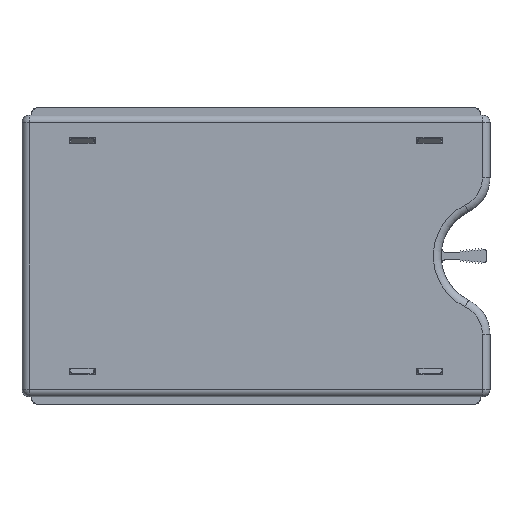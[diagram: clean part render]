
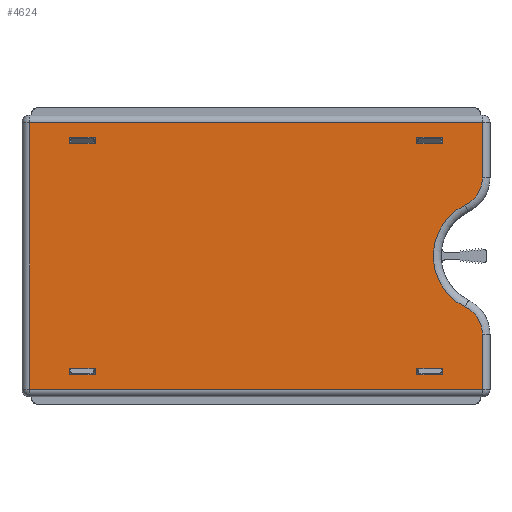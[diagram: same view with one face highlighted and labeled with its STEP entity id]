
A CAD part, top view. The second image highlights one B-rep face of the part: STEP entity #4624.
In plain terms, the highlighted planar face has unit normal (0, 0, 1).
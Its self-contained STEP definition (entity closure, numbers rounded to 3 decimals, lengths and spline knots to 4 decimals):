
#709=DIRECTION('',(1.,0.,0.));
#710=VECTOR('',#709,5.9987);
#711=CARTESIAN_POINT('',(-2.9994,-1.7664,0.09));
#712=LINE('',#711,#710);
#727=DIRECTION('',(0.,-1.,0.));
#728=VECTOR('',#727,3.5327);
#729=CARTESIAN_POINT('',(-2.9994,1.7664,0.09));
#730=LINE('',#729,#728);
#731=DIRECTION('',(0.,1.,0.));
#732=VECTOR('',#731,0.7308);
#733=CARTESIAN_POINT('',(2.9994,1.0356,0.09));
#734=LINE('',#733,#732);
#735=CARTESIAN_POINT('',(2.601,1.0356,0.09));
#736=DIRECTION('',(0.,0.,1.));
#737=DIRECTION('',(0.435,-0.901,0.));
#738=AXIS2_PLACEMENT_3D('',#735,#736,#737);
#740=CARTESIAN_POINT('',(3.101,0.,0.09));
#741=DIRECTION('',(0.,0.,-1.));
#742=DIRECTION('',(-0.435,-0.901,0.));
#743=AXIS2_PLACEMENT_3D('',#740,#741,#742);
#745=CARTESIAN_POINT('',(2.601,-1.0356,0.09));
#746=DIRECTION('',(0.,0.,1.));
#747=DIRECTION('',(1.,0.,0.));
#748=AXIS2_PLACEMENT_3D('',#745,#746,#747);
#750=DIRECTION('',(0.,1.,0.));
#751=VECTOR('',#750,0.7308);
#752=CARTESIAN_POINT('',(2.9994,-1.7664,0.09));
#753=LINE('',#752,#751);
#754=DIRECTION('',(0.,1.,0.));
#755=VECTOR('',#754,0.0817);
#756=CARTESIAN_POINT('',(2.4736,-1.5716,0.09));
#757=LINE('',#756,#755);
#758=DIRECTION('',(-1.,0.,0.));
#759=VECTOR('',#758,0.3431);
#760=CARTESIAN_POINT('',(2.4736,-1.4899,0.09));
#761=LINE('',#760,#759);
#762=DIRECTION('',(0.,-1.,0.));
#763=VECTOR('',#762,0.0817);
#764=CARTESIAN_POINT('',(2.1304,-1.4899,0.09));
#765=LINE('',#764,#763);
#766=DIRECTION('',(1.,0.,0.));
#767=VECTOR('',#766,0.3431);
#768=CARTESIAN_POINT('',(2.1304,-1.5716,0.09));
#769=LINE('',#768,#767);
#770=DIRECTION('',(-1.,0.,0.));
#771=VECTOR('',#770,0.3431);
#772=CARTESIAN_POINT('',(2.4736,1.4899,0.09));
#773=LINE('',#772,#771);
#774=DIRECTION('',(0.,-1.,0.));
#775=VECTOR('',#774,0.0817);
#776=CARTESIAN_POINT('',(2.4736,1.5716,0.09));
#777=LINE('',#776,#775);
#778=DIRECTION('',(1.,0.,0.));
#779=VECTOR('',#778,0.3431);
#780=CARTESIAN_POINT('',(2.1304,1.5716,0.09));
#781=LINE('',#780,#779);
#782=DIRECTION('',(0.,1.,0.));
#783=VECTOR('',#782,0.0817);
#784=CARTESIAN_POINT('',(2.1304,1.4899,0.09));
#785=LINE('',#784,#783);
#786=DIRECTION('',(1.,0.,0.));
#787=VECTOR('',#786,0.3431);
#788=CARTESIAN_POINT('',(-2.4736,-1.4899,0.09));
#789=LINE('',#788,#787);
#790=DIRECTION('',(0.,1.,0.));
#791=VECTOR('',#790,0.0817);
#792=CARTESIAN_POINT('',(-2.4736,-1.5716,0.09));
#793=LINE('',#792,#791);
#794=DIRECTION('',(-1.,0.,0.));
#795=VECTOR('',#794,0.3431);
#796=CARTESIAN_POINT('',(-2.1304,-1.5716,0.09));
#797=LINE('',#796,#795);
#798=DIRECTION('',(0.,-1.,0.));
#799=VECTOR('',#798,0.0817);
#800=CARTESIAN_POINT('',(-2.1304,-1.4899,0.09));
#801=LINE('',#800,#799);
#802=DIRECTION('',(1.,0.,0.));
#803=VECTOR('',#802,0.3431);
#804=CARTESIAN_POINT('',(-2.4736,1.4899,0.09));
#805=LINE('',#804,#803);
#806=DIRECTION('',(0.,1.,0.));
#807=VECTOR('',#806,0.0817);
#808=CARTESIAN_POINT('',(-2.1304,1.4899,0.09));
#809=LINE('',#808,#807);
#810=DIRECTION('',(-1.,0.,0.));
#811=VECTOR('',#810,0.3431);
#812=CARTESIAN_POINT('',(-2.1304,1.5716,0.09));
#813=LINE('',#812,#811);
#814=DIRECTION('',(0.,-1.,0.));
#815=VECTOR('',#814,0.0817);
#816=CARTESIAN_POINT('',(-2.4736,1.5716,0.09));
#817=LINE('',#816,#815);
#833=DIRECTION('',(-1.,0.,0.));
#834=VECTOR('',#833,5.9987);
#835=CARTESIAN_POINT('',(2.9994,1.7664,0.09));
#836=LINE('',#835,#834);
#3295=CARTESIAN_POINT('',(2.9994,-1.7664,0.09));
#3296=VERTEX_POINT('',#3295);
#3298=CARTESIAN_POINT('',(2.9994,1.7664,0.09));
#3300=VERTEX_POINT('',#3298);
#3305=CARTESIAN_POINT('',(-2.9994,1.7664,0.09));
#3307=VERTEX_POINT('',#3305);
#3312=CARTESIAN_POINT('',(-2.9994,-1.7664,0.09));
#3314=VERTEX_POINT('',#3312);
#3319=CARTESIAN_POINT('',(2.9994,1.0356,0.09));
#3320=VERTEX_POINT('',#3319);
#3321=CARTESIAN_POINT('',(2.7742,0.6769,0.09));
#3322=VERTEX_POINT('',#3321);
#3323=CARTESIAN_POINT('',(2.7742,-0.6769,0.09));
#3324=VERTEX_POINT('',#3323);
#3325=CARTESIAN_POINT('',(2.9994,-1.0356,0.09));
#3326=VERTEX_POINT('',#3325);
#3451=CARTESIAN_POINT('',(2.4736,-1.4899,0.09));
#3452=CARTESIAN_POINT('',(2.1304,-1.4899,0.09));
#3453=VERTEX_POINT('',#3451);
#3454=VERTEX_POINT('',#3452);
#3463=CARTESIAN_POINT('',(2.1304,-1.5716,0.09));
#3464=CARTESIAN_POINT('',(2.4736,-1.5716,0.09));
#3465=VERTEX_POINT('',#3463);
#3466=VERTEX_POINT('',#3464);
#3525=CARTESIAN_POINT('',(2.4736,1.4899,0.09));
#3527=VERTEX_POINT('',#3525);
#3529=CARTESIAN_POINT('',(2.1304,1.4899,0.09));
#3531=VERTEX_POINT('',#3529);
#3533=CARTESIAN_POINT('',(2.4736,1.5716,0.09));
#3535=VERTEX_POINT('',#3533);
#3537=CARTESIAN_POINT('',(2.1304,1.5716,0.09));
#3539=VERTEX_POINT('',#3537);
#3599=CARTESIAN_POINT('',(-2.4736,-1.4899,0.09));
#3601=VERTEX_POINT('',#3599);
#3603=CARTESIAN_POINT('',(-2.1304,-1.4899,0.09));
#3605=VERTEX_POINT('',#3603);
#3607=CARTESIAN_POINT('',(-2.4736,-1.5716,0.09));
#3609=VERTEX_POINT('',#3607);
#3611=CARTESIAN_POINT('',(-2.1304,-1.5716,0.09));
#3613=VERTEX_POINT('',#3611);
#3673=CARTESIAN_POINT('',(-2.4736,1.4899,0.09));
#3675=VERTEX_POINT('',#3673);
#3677=CARTESIAN_POINT('',(-2.1304,1.4899,0.09));
#3679=VERTEX_POINT('',#3677);
#3681=CARTESIAN_POINT('',(-2.4736,1.5716,0.09));
#3683=VERTEX_POINT('',#3681);
#3685=CARTESIAN_POINT('',(-2.1304,1.5716,0.09));
#3687=VERTEX_POINT('',#3685);
#4562=CARTESIAN_POINT('',(0.,0.,0.09));
#4563=DIRECTION('',(0.,0.,1.));
#4564=DIRECTION('',(1.,0.,0.));
#4565=AXIS2_PLACEMENT_3D('',#4562,#4563,#4564);
#4566=PLANE('',#4565);
#4567=ORIENTED_EDGE('',*,*,#4544,.F.);
#4569=ORIENTED_EDGE('',*,*,#4568,.F.);
#4571=ORIENTED_EDGE('',*,*,#4570,.F.);
#4573=ORIENTED_EDGE('',*,*,#4572,.F.);
#4575=ORIENTED_EDGE('',*,*,#4574,.F.);
#4577=ORIENTED_EDGE('',*,*,#4576,.F.);
#4579=ORIENTED_EDGE('',*,*,#4578,.F.);
#4581=ORIENTED_EDGE('',*,*,#4580,.F.);
#4582=EDGE_LOOP('',(#4567,#4569,#4571,#4573,#4575,#4577,#4579,#4581));
#4583=FACE_OUTER_BOUND('',#4582,.F.);
#4585=ORIENTED_EDGE('',*,*,#4584,.T.);
#4587=ORIENTED_EDGE('',*,*,#4586,.T.);
#4589=ORIENTED_EDGE('',*,*,#4588,.T.);
#4591=ORIENTED_EDGE('',*,*,#4590,.T.);
#4592=EDGE_LOOP('',(#4585,#4587,#4589,#4591));
#4593=FACE_BOUND('',#4592,.F.);
#4595=ORIENTED_EDGE('',*,*,#4594,.F.);
#4597=ORIENTED_EDGE('',*,*,#4596,.F.);
#4599=ORIENTED_EDGE('',*,*,#4598,.F.);
#4601=ORIENTED_EDGE('',*,*,#4600,.F.);
#4602=EDGE_LOOP('',(#4595,#4597,#4599,#4601));
#4603=FACE_BOUND('',#4602,.F.);
#4605=ORIENTED_EDGE('',*,*,#4604,.F.);
#4607=ORIENTED_EDGE('',*,*,#4606,.F.);
#4609=ORIENTED_EDGE('',*,*,#4608,.F.);
#4611=ORIENTED_EDGE('',*,*,#4610,.F.);
#4612=EDGE_LOOP('',(#4605,#4607,#4609,#4611));
#4613=FACE_BOUND('',#4612,.F.);
#4615=ORIENTED_EDGE('',*,*,#4614,.T.);
#4617=ORIENTED_EDGE('',*,*,#4616,.T.);
#4619=ORIENTED_EDGE('',*,*,#4618,.T.);
#4621=ORIENTED_EDGE('',*,*,#4620,.T.);
#4622=EDGE_LOOP('',(#4615,#4617,#4619,#4621));
#4623=FACE_BOUND('',#4622,.F.);
#4624=ADVANCED_FACE('',(#4583,#4593,#4603,#4613,#4623),#4566,.T.);
#739=CIRCLE('',#738,0.3984);
#744=CIRCLE('',#743,0.7516);
#749=CIRCLE('',#748,0.3984);
#4544=EDGE_CURVE('',#3314,#3296,#712,.T.);
#4568=EDGE_CURVE('',#3307,#3314,#730,.T.);
#4570=EDGE_CURVE('',#3300,#3307,#836,.T.);
#4572=EDGE_CURVE('',#3320,#3300,#734,.T.);
#4574=EDGE_CURVE('',#3322,#3320,#739,.T.);
#4576=EDGE_CURVE('',#3324,#3322,#744,.T.);
#4578=EDGE_CURVE('',#3326,#3324,#749,.T.);
#4580=EDGE_CURVE('',#3296,#3326,#753,.T.);
#4584=EDGE_CURVE('',#3466,#3453,#757,.T.);
#4586=EDGE_CURVE('',#3453,#3454,#761,.T.);
#4588=EDGE_CURVE('',#3454,#3465,#765,.T.);
#4590=EDGE_CURVE('',#3465,#3466,#769,.T.);
#4594=EDGE_CURVE('',#3527,#3531,#773,.T.);
#4596=EDGE_CURVE('',#3535,#3527,#777,.T.);
#4598=EDGE_CURVE('',#3539,#3535,#781,.T.);
#4600=EDGE_CURVE('',#3531,#3539,#785,.T.);
#4604=EDGE_CURVE('',#3601,#3605,#789,.T.);
#4606=EDGE_CURVE('',#3609,#3601,#793,.T.);
#4608=EDGE_CURVE('',#3613,#3609,#797,.T.);
#4610=EDGE_CURVE('',#3605,#3613,#801,.T.);
#4614=EDGE_CURVE('',#3675,#3679,#805,.T.);
#4616=EDGE_CURVE('',#3679,#3687,#809,.T.);
#4618=EDGE_CURVE('',#3687,#3683,#813,.T.);
#4620=EDGE_CURVE('',#3683,#3675,#817,.T.);
